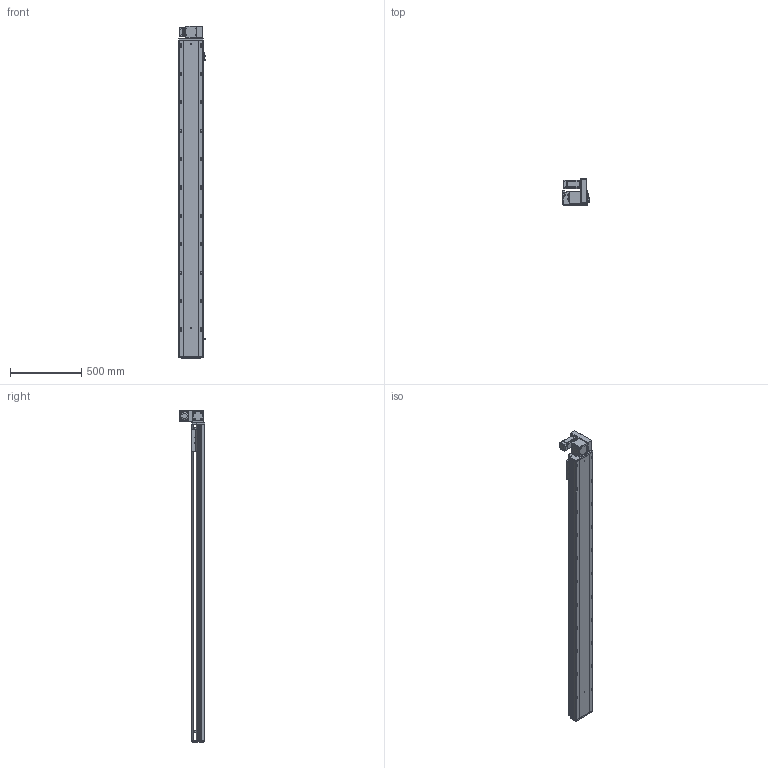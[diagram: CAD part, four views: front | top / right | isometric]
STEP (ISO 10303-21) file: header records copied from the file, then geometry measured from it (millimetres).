
FILE_DESCRIPTION (( 'STEP AP203' ), '1' );
FILE_NAME ('RY170-T-300-UR-P400W.SLDASM_1950.step', '2021-03-01T09:29:00', ( '盈信电脑' ), ( '东莞市道滘镇水果街19号' ), 'SwSTEP 2.0', 'SolidWorks 2012', '' );
FILE_SCHEMA (( 'CONFIG_CONTROL_DESIGN' ));
Length unit declared in the file: millimetre
Products named in the file (18): RY170-T-300-UR-P400W.SLDASM_1950; 滅袉蝶18-10; 15; RY170-T肮祭湍揤踡輸2; RY170-T肮祭謫裔啣; RY120-T主同步轮轴承压盖; RY170-T蹟翐M4; RY170同步轮电机安装板(400W); RY170-T肮祭湍揤踡輸1; RY170肮祭謫萇儂欶; RY170外置感应片(200共用）; RY170翋肮祭謫釱; RY170肮祭謫ヶ裔啣; 覜茼ん672; RY170-T-300肮祭謫倰第裔啣-DR_1950; RY170綴裔啣; RY170肮祭湍臏賑輸; RY170-T-300肮祭謫倰第菁釱-DR_1950
Assembly tree (22 placements, depth 2):
  RY170-T-300-UR-P400W.SLDASM_1950
    RY170-T-300肮祭謫倰第菁釱-DR_1950
    RY170肮祭湍臏賑輸
    RY170-T-300肮祭謫倰第裔啣-DR_1950
    RY170綴裔啣
    覜茼ん672  x3
    RY170外置感应片(200共用）
    RY170肮祭謫ヶ裔啣
    RY170翋肮祭謫釱
    RY170同步轮电机安装板(400W)
    RY170肮祭謫萇儂欶
    RY170-T肮祭湍揤踡輸1  x2
    RY170-T肮祭湍揤踡輸2  x2
    RY120-T主同步轮轴承压盖
    RY170-T肮祭謫裔啣
    RY170-T蹟翐M4
    滅袉蝶18-10  x2
    15
Bounding box: 183.7 x 182 x 2338 mm (x, y, z)
Volume: 10881410.5 mm3; surface area: 3746086.9 mm2
Topology: 22 solids, 22 shells, 2976 faces, 8326 edges, 5309 vertices
Faces by surface type: cylinder 1378, plane 1268, cone 300, bspline 30
Entity records: 90160 total; most frequent: CARTESIAN_POINT 20732, ORIENTED_EDGE 14232, DIRECTION 13906, EDGE_CURVE 7116, AXIS2_PLACEMENT_3D 4933, VERTEX_POINT 4665, LINE 4040, VECTOR 4040
